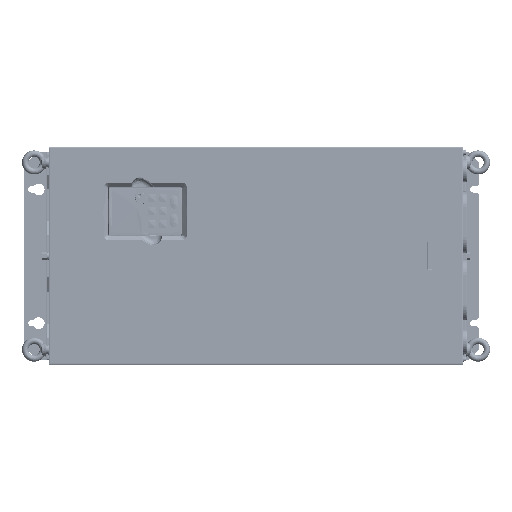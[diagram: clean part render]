
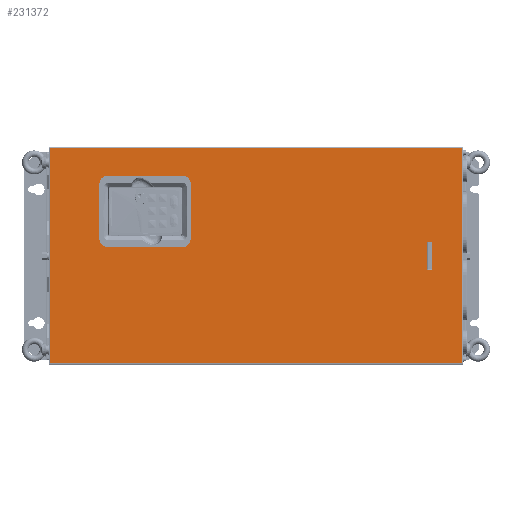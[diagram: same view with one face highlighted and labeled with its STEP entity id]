
A CAD part, top view. The second image highlights one B-rep face of the part: STEP entity #231372.
In plain terms, the highlighted planar face has unit normal (0, 0, 1) as drawn and (0, 1, 0) by its records, which use the part's own axes.
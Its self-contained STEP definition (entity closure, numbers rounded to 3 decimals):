
#229435=DIRECTION('',(0.,0.,1.));
#229436=VECTOR('',#229435,111.501);
#229437=CARTESIAN_POINT('',(120.,0.,-221.7));
#229438=LINE('',#229437,#229436);
#229439=CARTESIAN_POINT('',(107.5,0.,-221.7));
#229440=DIRECTION('',(0.,1.,0.));
#229441=DIRECTION('',(1.,0.,0.));
#229442=AXIS2_PLACEMENT_3D('',#229439,#229440,#229441);
#229444=DIRECTION('',(1.,0.,0.));
#229445=VECTOR('',#229444,82.);
#229446=CARTESIAN_POINT('',(25.5,0.,-234.2));
#229447=LINE('',#229446,#229445);
#229448=CARTESIAN_POINT('',(25.5,0.,-221.7));
#229449=DIRECTION('',(0.,1.,0.));
#229450=DIRECTION('',(0.,0.,-1.));
#229451=AXIS2_PLACEMENT_3D('',#229448,#229449,#229450);
#229453=DIRECTION('',(0.,0.,-1.));
#229454=VECTOR('',#229453,111.501);
#229455=CARTESIAN_POINT('',(13.,0.,-110.199));
#229456=LINE('',#229455,#229454);
#229457=CARTESIAN_POINT('',(25.5,0.,-110.199));
#229458=DIRECTION('',(0.,1.,0.));
#229459=DIRECTION('',(-1.,0.,0.));
#229460=AXIS2_PLACEMENT_3D('',#229457,#229458,#229459);
#229462=DIRECTION('',(-1.,0.,0.));
#229463=VECTOR('',#229462,82.);
#229464=CARTESIAN_POINT('',(107.5,0.,-97.699));
#229465=LINE('',#229464,#229463);
#229466=CARTESIAN_POINT('',(107.5,0.,-110.199));
#229467=DIRECTION('',(0.,1.,0.));
#229468=DIRECTION('',(0.,0.,1.));
#229469=AXIS2_PLACEMENT_3D('',#229466,#229467,#229468);
#229471=DIRECTION('',(1.,0.,0.));
#229472=VECTOR('',#229471,40.6);
#229473=CARTESIAN_POINT('',(-20.3,0.,256.3));
#229474=LINE('',#229473,#229472);
#229475=CARTESIAN_POINT('',(-20.3,0.,256.7));
#229476=DIRECTION('',(0.,1.,0.));
#229477=DIRECTION('',(0.,0.,-1.));
#229478=AXIS2_PLACEMENT_3D('',#229475,#229476,#229477);
#229480=DIRECTION('',(0.,0.,-1.));
#229481=VECTOR('',#229480,6.6);
#229482=CARTESIAN_POINT('',(-20.7,0.,263.3));
#229483=LINE('',#229482,#229481);
#229484=CARTESIAN_POINT('',(-20.3,0.,263.3));
#229485=DIRECTION('',(0.,1.,0.));
#229486=DIRECTION('',(-1.,0.,0.));
#229487=AXIS2_PLACEMENT_3D('',#229484,#229485,#229486);
#229489=DIRECTION('',(-1.,0.,0.));
#229490=VECTOR('',#229489,40.6);
#229491=CARTESIAN_POINT('',(20.3,0.,263.7));
#229492=LINE('',#229491,#229490);
#229493=CARTESIAN_POINT('',(20.3,0.,263.3));
#229494=DIRECTION('',(0.,1.,0.));
#229495=DIRECTION('',(0.,0.,1.));
#229496=AXIS2_PLACEMENT_3D('',#229493,#229494,#229495);
#229498=DIRECTION('',(0.,0.,1.));
#229499=VECTOR('',#229498,6.6);
#229500=CARTESIAN_POINT('',(20.7,0.,256.7));
#229501=LINE('',#229500,#229499);
#229502=CARTESIAN_POINT('',(20.3,0.,256.7));
#229503=DIRECTION('',(0.,1.,0.));
#229504=DIRECTION('',(1.,0.,0.));
#229505=AXIS2_PLACEMENT_3D('',#229502,#229503,#229504);
#229516=DIRECTION('',(-1.,0.,0.));
#229517=VECTOR('',#229516,321.6);
#229518=CARTESIAN_POINT('',(160.8,0.,-308.3));
#229519=LINE('',#229518,#229517);
#230052=DIRECTION('',(0.,0.,1.));
#230053=VECTOR('',#230052,616.6);
#230054=CARTESIAN_POINT('',(-160.8,0.,-308.3));
#230055=LINE('',#230054,#230053);
#230102=DIRECTION('',(1.,0.,0.));
#230103=VECTOR('',#230102,321.6);
#230104=CARTESIAN_POINT('',(-160.8,0.,308.3));
#230105=LINE('',#230104,#230103);
#230246=DIRECTION('',(0.,0.,-1.));
#230247=VECTOR('',#230246,616.6);
#230248=CARTESIAN_POINT('',(160.8,0.,308.3));
#230249=LINE('',#230248,#230247);
#230973=CARTESIAN_POINT('',(-160.8,0.,308.3));
#230974=VERTEX_POINT('',#230973);
#230977=CARTESIAN_POINT('',(160.8,0.,308.3));
#230978=VERTEX_POINT('',#230977);
#230997=CARTESIAN_POINT('',(160.8,0.,-308.3));
#230998=VERTEX_POINT('',#230997);
#231001=CARTESIAN_POINT('',(-160.8,0.,-308.3));
#231002=VERTEX_POINT('',#231001);
#231145=CARTESIAN_POINT('',(120.,0.,-221.7));
#231146=CARTESIAN_POINT('',(120.,0.,-110.199));
#231147=VERTEX_POINT('',#231145);
#231148=VERTEX_POINT('',#231146);
#231149=CARTESIAN_POINT('',(107.5,0.,-97.699));
#231150=VERTEX_POINT('',#231149);
#231151=CARTESIAN_POINT('',(25.5,0.,-97.699));
#231152=VERTEX_POINT('',#231151);
#231153=CARTESIAN_POINT('',(13.,0.,-110.199));
#231154=VERTEX_POINT('',#231153);
#231155=CARTESIAN_POINT('',(13.,0.,-221.7));
#231156=VERTEX_POINT('',#231155);
#231157=CARTESIAN_POINT('',(25.5,0.,-234.2));
#231158=VERTEX_POINT('',#231157);
#231159=CARTESIAN_POINT('',(107.5,0.,-234.2));
#231160=VERTEX_POINT('',#231159);
#231221=CARTESIAN_POINT('',(-20.3,0.,256.3));
#231222=CARTESIAN_POINT('',(20.3,0.,256.3));
#231223=VERTEX_POINT('',#231221);
#231224=VERTEX_POINT('',#231222);
#231243=CARTESIAN_POINT('',(-20.7,0.,263.3));
#231244=CARTESIAN_POINT('',(-20.7,0.,256.7));
#231245=VERTEX_POINT('',#231243);
#231246=VERTEX_POINT('',#231244);
#231255=CARTESIAN_POINT('',(20.3,0.,263.7));
#231256=CARTESIAN_POINT('',(-20.3,0.,263.7));
#231257=VERTEX_POINT('',#231255);
#231258=VERTEX_POINT('',#231256);
#231269=CARTESIAN_POINT('',(20.7,0.,256.7));
#231270=CARTESIAN_POINT('',(20.7,0.,263.3));
#231271=VERTEX_POINT('',#231269);
#231272=VERTEX_POINT('',#231270);
#231321=CARTESIAN_POINT('',(162.5,0.,-310.));
#231322=DIRECTION('',(0.,1.,0.));
#231323=DIRECTION('',(-1.,0.,0.));
#231324=AXIS2_PLACEMENT_3D('',#231321,#231322,#231323);
#231325=PLANE('',#231324);
#231327=ORIENTED_EDGE('',*,*,#231326,.F.);
#231329=ORIENTED_EDGE('',*,*,#231328,.F.);
#231331=ORIENTED_EDGE('',*,*,#231330,.F.);
#231333=ORIENTED_EDGE('',*,*,#231332,.F.);
#231334=EDGE_LOOP('',(#231327,#231329,#231331,#231333));
#231335=FACE_OUTER_BOUND('',#231334,.F.);
#231337=ORIENTED_EDGE('',*,*,#231336,.F.);
#231339=ORIENTED_EDGE('',*,*,#231338,.T.);
#231341=ORIENTED_EDGE('',*,*,#231340,.F.);
#231343=ORIENTED_EDGE('',*,*,#231342,.T.);
#231345=ORIENTED_EDGE('',*,*,#231344,.F.);
#231347=ORIENTED_EDGE('',*,*,#231346,.T.);
#231349=ORIENTED_EDGE('',*,*,#231348,.F.);
#231351=ORIENTED_EDGE('',*,*,#231350,.T.);
#231352=EDGE_LOOP('',(#231337,#231339,#231341,#231343,#231345,#231347,#231349,
#231351));
#231353=FACE_BOUND('',#231352,.F.);
#231355=ORIENTED_EDGE('',*,*,#231354,.F.);
#231357=ORIENTED_EDGE('',*,*,#231356,.T.);
#231359=ORIENTED_EDGE('',*,*,#231358,.F.);
#231361=ORIENTED_EDGE('',*,*,#231360,.T.);
#231363=ORIENTED_EDGE('',*,*,#231362,.F.);
#231365=ORIENTED_EDGE('',*,*,#231364,.T.);
#231367=ORIENTED_EDGE('',*,*,#231366,.F.);
#231369=ORIENTED_EDGE('',*,*,#231368,.T.);
#231370=EDGE_LOOP('',(#231355,#231357,#231359,#231361,#231363,#231365,#231367,
#231369));
#231371=FACE_BOUND('',#231370,.F.);
#229443=CIRCLE('',#229442,12.5);
#229452=CIRCLE('',#229451,12.5);
#229461=CIRCLE('',#229460,12.5);
#229470=CIRCLE('',#229469,12.5);
#229479=CIRCLE('',#229478,0.4);
#229488=CIRCLE('',#229487,0.4);
#229497=CIRCLE('',#229496,0.4);
#229506=CIRCLE('',#229505,0.4);
#231326=EDGE_CURVE('',#230998,#231002,#229519,.T.);
#231328=EDGE_CURVE('',#230978,#230998,#230249,.T.);
#231330=EDGE_CURVE('',#230974,#230978,#230105,.T.);
#231332=EDGE_CURVE('',#231002,#230974,#230055,.T.);
#231336=EDGE_CURVE('',#231147,#231148,#229438,.T.);
#231338=EDGE_CURVE('',#231147,#231160,#229443,.T.);
#231340=EDGE_CURVE('',#231158,#231160,#229447,.T.);
#231342=EDGE_CURVE('',#231158,#231156,#229452,.T.);
#231344=EDGE_CURVE('',#231154,#231156,#229456,.T.);
#231346=EDGE_CURVE('',#231154,#231152,#229461,.T.);
#231348=EDGE_CURVE('',#231150,#231152,#229465,.T.);
#231350=EDGE_CURVE('',#231150,#231148,#229470,.T.);
#231354=EDGE_CURVE('',#231223,#231224,#229474,.T.);
#231356=EDGE_CURVE('',#231223,#231246,#229479,.T.);
#231358=EDGE_CURVE('',#231245,#231246,#229483,.T.);
#231360=EDGE_CURVE('',#231245,#231258,#229488,.T.);
#231362=EDGE_CURVE('',#231257,#231258,#229492,.T.);
#231364=EDGE_CURVE('',#231257,#231272,#229497,.T.);
#231366=EDGE_CURVE('',#231271,#231272,#229501,.T.);
#231368=EDGE_CURVE('',#231271,#231224,#229506,.T.);
#231372=ADVANCED_FACE('',(#231335,#231353,#231371),#231325,.T.);
